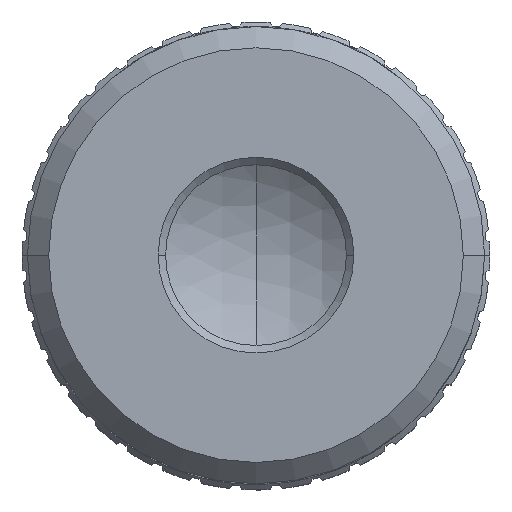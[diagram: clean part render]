
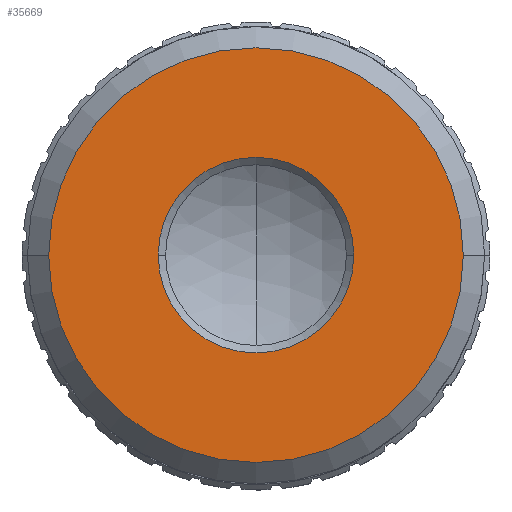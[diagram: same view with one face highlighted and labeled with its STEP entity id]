
A CAD part, top view. The second image highlights one B-rep face of the part: STEP entity #35669.
In plain terms, the highlighted planar face has unit normal (0, 0, 1).
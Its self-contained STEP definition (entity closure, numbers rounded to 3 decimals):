
#1618 = FACE_OUTER_BOUND ( 'NONE', #91158, .T. ) ;
#3381 = ORIENTED_EDGE ( 'NONE', *, *, #60115, .T. ) ;
#11653 = DIRECTION ( 'NONE',  ( 1., 0., 0. ) ) ;
#12833 = AXIS2_PLACEMENT_3D ( 'NONE', #26769, #96416, #11653 ) ;
#15109 = VERTEX_POINT ( 'NONE', #75900 ) ;
#17227 = CARTESIAN_POINT ( 'NONE',  ( 0., 9.2, -29. ) ) ;
#18022 = ORIENTED_EDGE ( 'NONE', *, *, #71405, .T. ) ;
#19819 = VERTEX_POINT ( 'NONE', #43608 ) ;
#20632 = CARTESIAN_POINT ( 'NONE',  ( 0., 0., -29. ) ) ;
#21583 = DIRECTION ( 'NONE',  ( 0., 0., 1. ) ) ;
#25194 = ORIENTED_EDGE ( 'NONE', *, *, #50445, .F. ) ;
#26769 = CARTESIAN_POINT ( 'NONE',  ( 0., 0., -29. ) ) ;
#28051 = CARTESIAN_POINT ( 'NONE',  ( -19.5, 0., -29. ) ) ;
#32370 = PLANE ( 'NONE',  #70284 ) ;
#32402 = DIRECTION ( 'NONE',  ( 0., 0., 1. ) ) ;
#35669 = ADVANCED_FACE ( 'NONE', ( #70703, #1618 ), #32370, .F. ) ;
#38935 = DIRECTION ( 'NONE',  ( 0., 0., -1. ) ) ;
#40317 = VERTEX_POINT ( 'NONE', #28051 ) ;
#40602 = DIRECTION ( 'NONE',  ( 1., 0., 0. ) ) ;
#41098 = CARTESIAN_POINT ( 'NONE',  ( 0., 0., -29. ) ) ;
#43608 = CARTESIAN_POINT ( 'NONE',  ( 9.2, 0., -29. ) ) ;
#45050 = CIRCLE ( 'NONE', #12833, 19.5 ) ;
#48141 = CARTESIAN_POINT ( 'NONE',  ( -9.2, 0., -29. ) ) ;
#48479 = VERTEX_POINT ( 'NONE', #48141 ) ;
#50445 = EDGE_CURVE ( 'NONE', #48479, #19819, #80080, .T. ) ;
#52555 = AXIS2_PLACEMENT_3D ( 'NONE', #20632, #21583, #82191 ) ;
#56795 = EDGE_LOOP ( 'NONE', ( #98242, #25194 ) ) ;
#60115 = EDGE_CURVE ( 'NONE', #15109, #40317, #68425, .T. ) ;
#68425 = CIRCLE ( 'NONE', #76506, 19.5 ) ;
#69698 = DIRECTION ( 'NONE',  ( -1., 0., 0. ) ) ;
#70284 = AXIS2_PLACEMENT_3D ( 'NONE', #17227, #38935, #69698 ) ;
#70703 = FACE_BOUND ( 'NONE', #56795, .T. ) ;
#71405 = EDGE_CURVE ( 'NONE', #40317, #15109, #45050, .T. ) ;
#71865 = DIRECTION ( 'NONE',  ( 0., 0., 1. ) ) ;
#75900 = CARTESIAN_POINT ( 'NONE',  ( 19.5, 0., -29. ) ) ;
#76506 = AXIS2_PLACEMENT_3D ( 'NONE', #80332, #32402, #86396 ) ;
#80080 = CIRCLE ( 'NONE', #84886, 9.2 ) ;
#80332 = CARTESIAN_POINT ( 'NONE',  ( 0., 0., -29. ) ) ;
#82191 = DIRECTION ( 'NONE',  ( 1., 0., 0. ) ) ;
#83160 = CIRCLE ( 'NONE', #52555, 9.2 ) ;
#84886 = AXIS2_PLACEMENT_3D ( 'NONE', #41098, #71865, #40602 ) ;
#86396 = DIRECTION ( 'NONE',  ( 1., 0., 0. ) ) ;
#91158 = EDGE_LOOP ( 'NONE', ( #18022, #3381 ) ) ;
#96416 = DIRECTION ( 'NONE',  ( 0., 0., 1. ) ) ;
#98242 = ORIENTED_EDGE ( 'NONE', *, *, #98855, .F. ) ;
#98855 = EDGE_CURVE ( 'NONE', #19819, #48479, #83160, .T. ) ;
